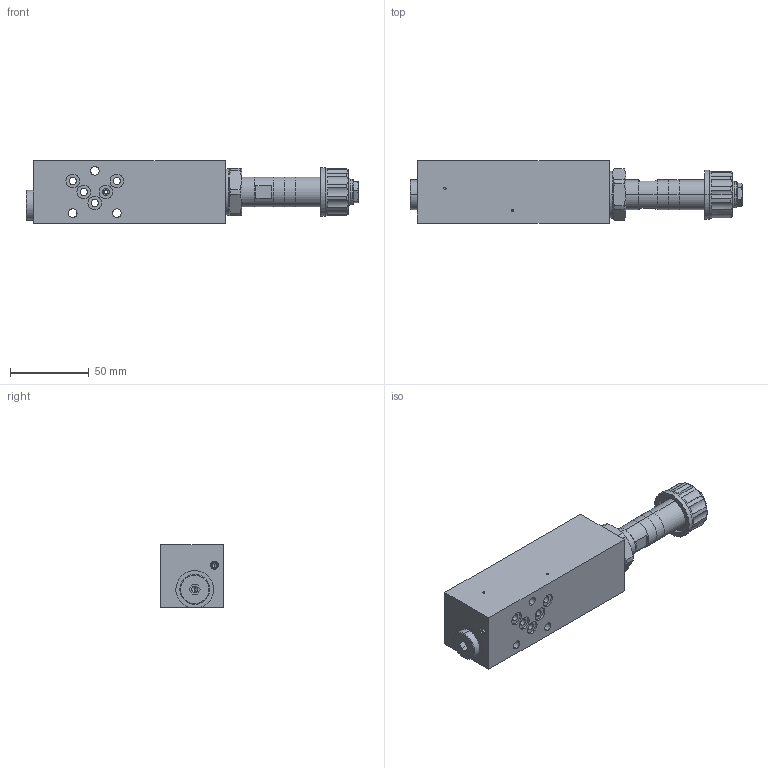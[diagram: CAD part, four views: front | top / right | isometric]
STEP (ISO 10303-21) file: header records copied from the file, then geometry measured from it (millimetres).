
FILE_DESCRIPTION (( 'STEP AP214' ), '1' );
FILE_NAME ('M.PSA04-B.STEP', '2017-03-31T06:06:34', ( '' ), ( '' ), 'SwSTEP 2.0', 'SolidWorks 2016', '' );
FILE_SCHEMA (( 'AUTOMOTIVE_DESIGN' ));
Length unit declared in the file: millimetre
Products named in the file (1): M.PSA04-B
Bounding box: 211 x 39.5 x 40 mm (x, y, z)
Volume: 221071.4 mm3; surface area: 38599.1 mm2
Topology: 4 solids, 8 shells, 523 faces, 1310 edges, 832 vertices
Faces by surface type: plane 239, cylinder 142, cone 100, bspline 22, torus 12, sphere 8
Entity records: 22558 total; most frequent: CARTESIAN_POINT 4370, DIRECTION 2591, ORIENTED_EDGE 2584, EDGE_CURVE 1292, AXIS2_PLACEMENT_3D 957, VERTEX_POINT 832, LINE 677, VECTOR 677
